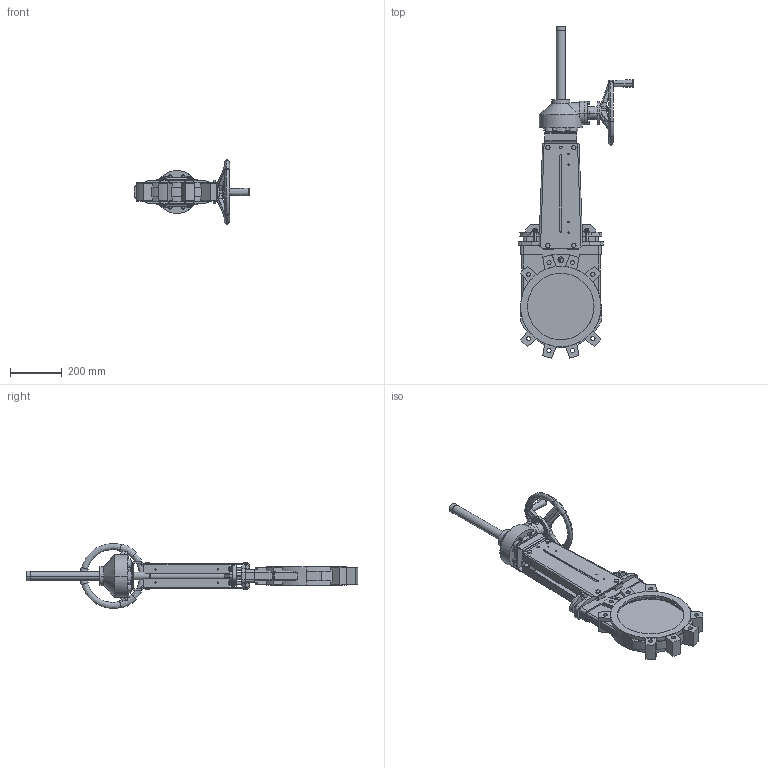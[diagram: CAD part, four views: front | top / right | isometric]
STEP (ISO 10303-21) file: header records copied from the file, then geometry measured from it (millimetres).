
FILE_DESCRIPTION (( 'STEP AP203' ), '1' );
FILE_NAME ('VG G DN250.STEP', '2010-04-22T09:03:41', ( 'farex' ), ( '' ), 'SwSTEP 2.0', 'SolidWorks 2009', '' );
FILE_SCHEMA (( 'CONFIG_CONTROL_DESIGN' ));
Length unit declared in the file: millimetre
Products named in the file (1): VG G DN250
Bounding box: 443 x 1278.12 x 249.05 mm (x, y, z)
Volume: 9061414.2 mm3; surface area: 1222849 mm2
Topology: 1 solids, 6 shells, 1056 faces, 2729 edges, 1773 vertices
Faces by surface type: plane 543, cylinder 314, bspline 100, cone 85, torus 14
Entity records: 37832 total; most frequent: CARTESIAN_POINT 12294, ORIENTED_EDGE 5458, DIRECTION 5013, EDGE_CURVE 2729, VERTEX_POINT 1773, AXIS2_PLACEMENT_3D 1734, VECTOR 1545, LINE 1545
